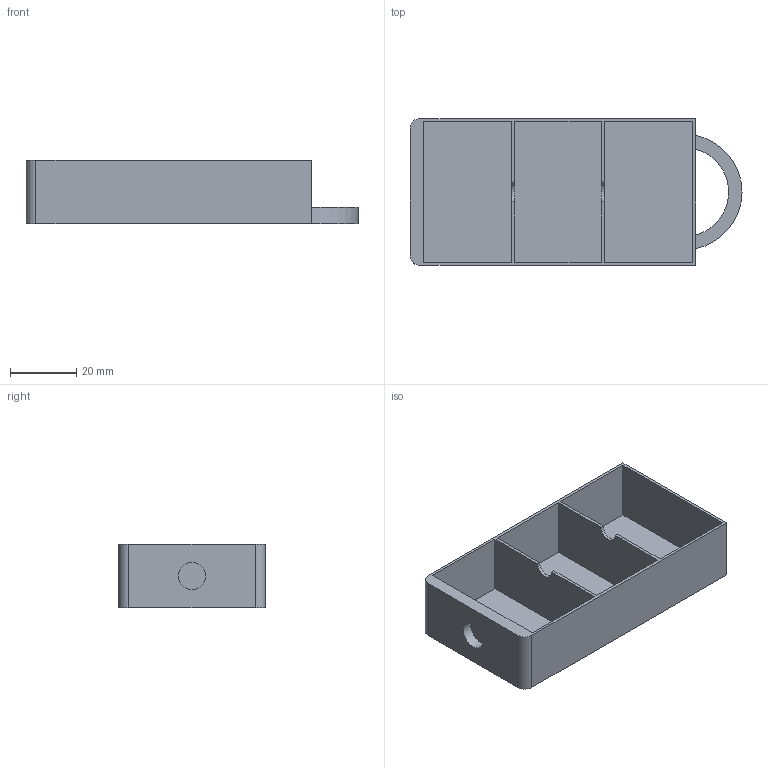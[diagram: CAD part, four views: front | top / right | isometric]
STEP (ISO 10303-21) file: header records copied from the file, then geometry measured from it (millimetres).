
FILE_DESCRIPTION(/* description */ (''),/* implementation_level */ '2;1');
FILE_NAME(/* name */ 'C:/Users/pet3r/Desktop/3D/MOJE/My Drawers/STEP/Drawer 1x1 3-slot.step',/* time_stamp */ '2018-03-31T21:33:39+02:00',/* author */ (''),/* organization */ (''),/* preprocessor_version */ 'ST-DEVELOPER v16.13',/* originating_system */ 'Autodesk Translation Framework v6.5.0.72',/* authorisation */ '');
FILE_SCHEMA (('AUTOMOTIVE_DESIGN { 1 0 10303 214 3 1 1 }'));
Length unit declared in the file: millimetre
Products named in the file (1): Drawer 1x1 3-slot
Bounding box: 100 x 44.2 x 19.2 mm (x, y, z)
Volume: 12011.2 mm3; surface area: 20843.1 mm2
Topology: 1 solids, 1 shells, 30 faces, 81 edges, 54 vertices
Faces by surface type: plane 23, cylinder 7
Full cylindrical faces by diameter (mm): 8.3 x1
Entity records: 983 total; most frequent: CARTESIAN_POINT 166, ORIENTED_EDGE 162, DIRECTION 157, EDGE_CURVE 81, LINE 67, VECTOR 67, VERTEX_POINT 54, AXIS2_PLACEMENT_3D 45
